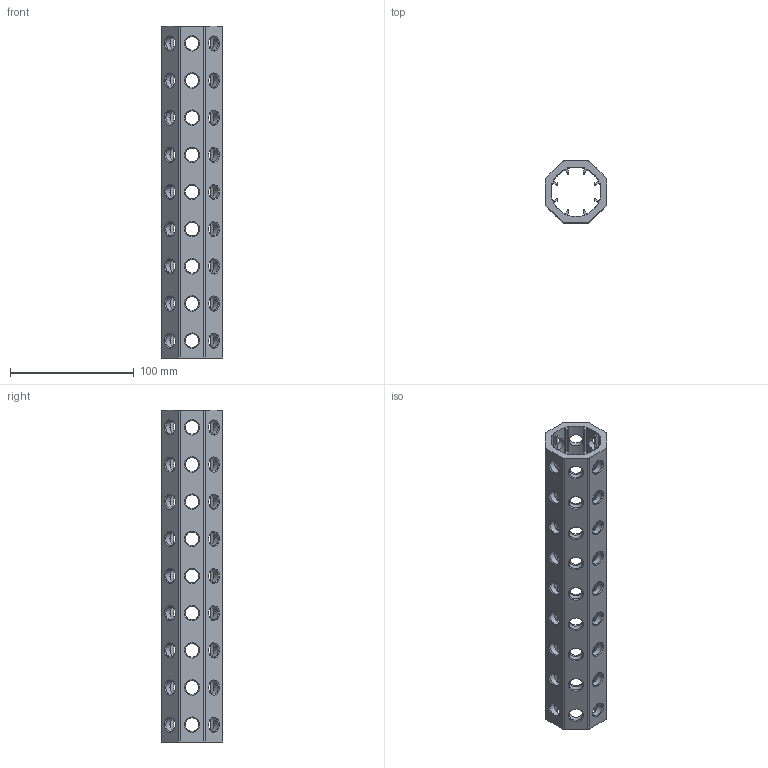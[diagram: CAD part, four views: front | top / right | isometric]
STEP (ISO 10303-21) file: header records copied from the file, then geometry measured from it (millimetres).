
FILE_DESCRIPTION(('CATIA V5 STEP Exchange'),'2;1');
FILE_NAME('U:\Room\唐宝山\EGT002\46-01-010238-01-EGT002-268.stp','2021-08-24T00:58:13+00:00',('none'),('none'),'CATIA Version 5 Release 21 GA (IN-10)','CATIA V5 STEP AP203','none');
FILE_SCHEMA(('CONFIG_CONTROL_DESIGN'));
Length unit declared in the file: millimetre
Products named in the file (1): 46-01-010238-01-EGT002-268
Bounding box: 50 x 50 x 268 mm (x, y, z)
Volume: 190722.6 mm3; surface area: 93509.7 mm2
Topology: 1 solids, 1 shells, 444 faces, 1236 edges, 776 vertices
Faces by surface type: cone 216, cylinder 202, plane 26
Entity records: 17907 total; most frequent: CARTESIAN_POINT 7042, ORIENTED_EDGE 2472, DIRECTION 1754, EDGE_CURVE 1236, AXIS2_PLACEMENT_3D 803, VERTEX_POINT 776, EDGE_LOOP 572, VECTOR 508
